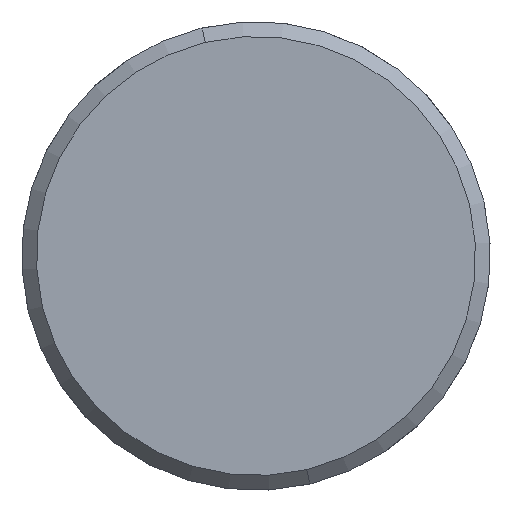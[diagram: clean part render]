
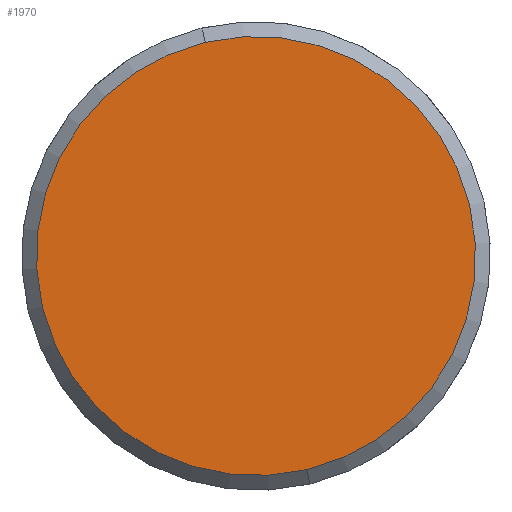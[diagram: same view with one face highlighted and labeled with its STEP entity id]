
A CAD part, front view. The second image highlights one B-rep face of the part: STEP entity #1970.
In plain terms, the highlighted planar face has unit normal (0, -1, 0).
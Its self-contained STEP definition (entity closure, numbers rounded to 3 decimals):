
#151 = VERTEX_POINT ( 'NONE', #234 ) ;
#188 = EDGE_LOOP ( 'NONE', ( #1438, #1427 ) ) ;
#221 = DIRECTION ( 'NONE',  ( 0., 0., -1. ) ) ;
#234 = CARTESIAN_POINT ( 'NONE',  ( 0., 0., 14.875 ) ) ;
#246 = DIRECTION ( 'NONE',  ( 0., -1., 0. ) ) ;
#259 = CARTESIAN_POINT ( 'NONE',  ( 0., 0., 0. ) ) ;
#395 = CARTESIAN_POINT ( 'NONE',  ( 0., 0., 0. ) ) ;
#465 = DIRECTION ( 'NONE',  ( 0., 0., -1. ) ) ;
#475 = DIRECTION ( 'NONE',  ( 0., -1., 0. ) ) ;
#690 = CIRCLE ( 'NONE', #1549, 14.875 ) ;
#752 = FACE_OUTER_BOUND ( 'NONE', #188, .T. ) ;
#996 = CARTESIAN_POINT ( 'NONE',  ( 0., 0., -14.875 ) ) ;
#1031 = DIRECTION ( 'NONE',  ( 0., 0., -1. ) ) ;
#1040 = PLANE ( 'NONE',  #1754 ) ;
#1043 = DIRECTION ( 'NONE',  ( 0., -1., 0. ) ) ;
#1242 = CARTESIAN_POINT ( 'NONE',  ( -15.875, 0., 0. ) ) ;
#1293 = CIRCLE ( 'NONE', #1564, 14.875 ) ;
#1427 = ORIENTED_EDGE ( 'NONE', *, *, #1650, .T. ) ;
#1438 = ORIENTED_EDGE ( 'NONE', *, *, #1531, .T. ) ;
#1531 = EDGE_CURVE ( 'NONE', #151, #1835, #1293, .T. ) ;
#1549 = AXIS2_PLACEMENT_3D ( 'NONE', #395, #475, #465 ) ;
#1564 = AXIS2_PLACEMENT_3D ( 'NONE', #259, #246, #221 ) ;
#1650 = EDGE_CURVE ( 'NONE', #1835, #151, #690, .T. ) ;
#1754 = AXIS2_PLACEMENT_3D ( 'NONE', #1242, #1043, #1031 ) ;
#1835 = VERTEX_POINT ( 'NONE', #996 ) ;
#1970 = ADVANCED_FACE ( 'NONE', ( #752 ), #1040, .T. ) ;
